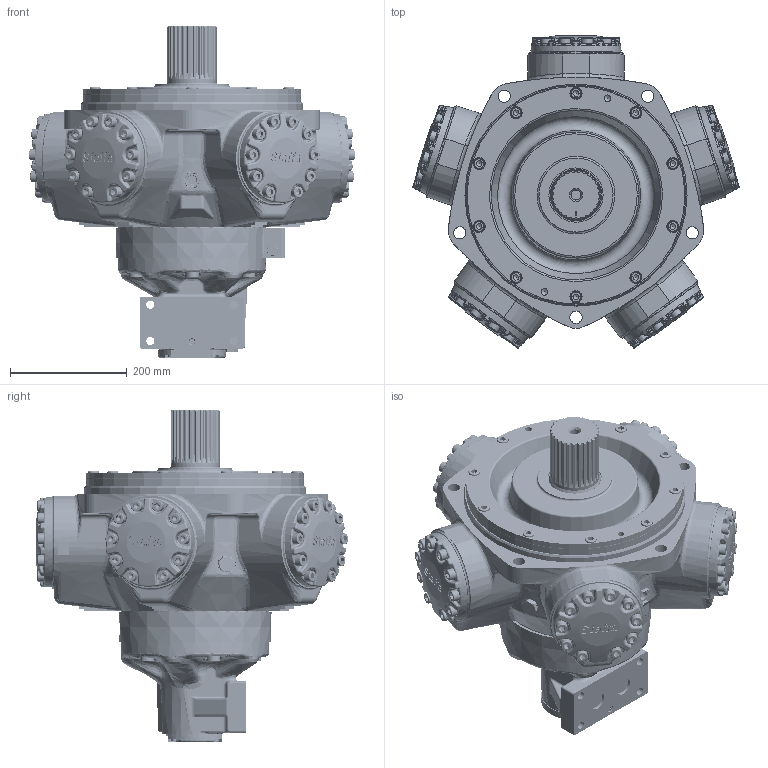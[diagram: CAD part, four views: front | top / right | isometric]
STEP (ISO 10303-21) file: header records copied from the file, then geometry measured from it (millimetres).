
FILE_DESCRIPTION(/* description */ (''),/* implementation_level */ '2;1');
FILE_NAME(/* name */ 'HMC 125_Z3_SM3_CS_72.stp',/* time_stamp */ '2025-04-28T09:38:36+01:00',/* author */ ('ccallanga'),/* organization */ (''),/* preprocessor_version */ 'ST-DEVELOPER v20',/* originating_system */ 'Autodesk Inventor 2024',/* authorisation */ '');
FILE_SCHEMA (('AUTOMOTIVE_DESIGN { 1 0 10303 214 3 1 1 }'));
Products named in the file (1): 017750 HMC125 WEBSITE ASSEMBLY_Simplify_1
Bounding box: 560.12 x 535.2 x 569.37 mm (x, y, z)
Volume: 41252709.2 mm3; surface area: 1112126.2 mm2
Topology: 1 solids, 1 shells, 5106 faces, 12518 edges, 7449 vertices
Faces by surface type: bspline 1872, plane 1342, cylinder 1123, torus 426, cone 218, sphere 125
Full cylindrical faces by diameter (mm): 2.2 x4, 4 x1, 4.134 x4, 5.5 x4, 9.4 x6, 11.328 x4, 11.913 x4, 12 x6, 12.7 x4, 14 x4, 16.51 x1, 17.323 x1, 19 x1, 19.05 x60, 20 x4, 20.637 x60, 21 x5, 23.825 x5, 25 x1, 25.4 x5, 26.92 x2, 28.75 x1, 32 x2, 38.1 x3, 68.58 x1, 84.4 x1, 88.837 x1, 92.964 x1, 127 x1, 158.75 x5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
Entity records: 230675 total; most frequent: CARTESIAN_POINT 119865, ORIENTED_EDGE 24544, DIRECTION 17846, EDGE_CURVE 12272, VERTEX_POINT 7449, AXIS2_PLACEMENT_3D 7024, EDGE_LOOP 5405, STYLED_ITEM 5107
